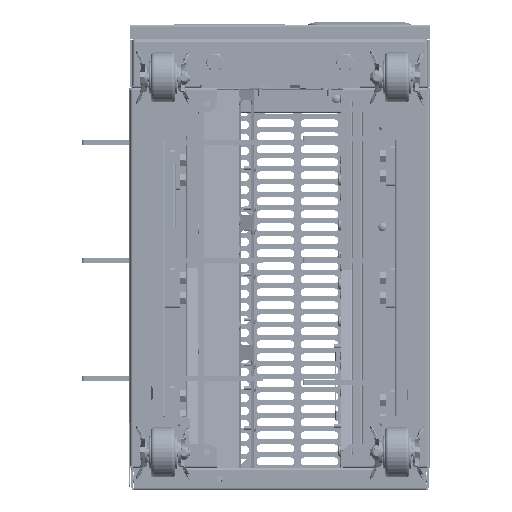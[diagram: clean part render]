
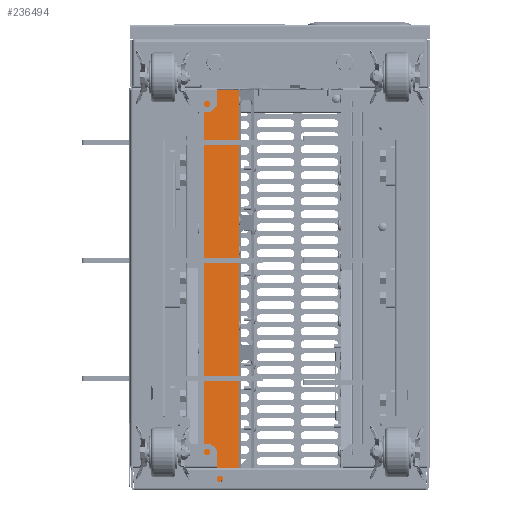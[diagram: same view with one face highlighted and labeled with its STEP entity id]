
A CAD part, front view. The second image highlights one B-rep face of the part: STEP entity #236494.
In plain terms, the highlighted planar face has unit normal (0, -0.563, 0.826) by its records, which use the part's own axes.
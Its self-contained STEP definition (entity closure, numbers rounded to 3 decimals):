
#236455=DIRECTION('',(0.,0.826,0.563));
#236456=VECTOR('',#236455,52.251);
#236457=CARTESIAN_POINT('',(-198.3,-42.414,-69.94));
#236458=LINE('',#236457,#236456);
#236459=DIRECTION('',(1.,0.,0.));
#236460=VECTOR('',#236459,396.6);
#236461=CARTESIAN_POINT('',(-198.3,0.758,-40.506));
#236462=LINE('',#236461,#236460);
#236463=DIRECTION('',(0.,-0.826,-0.563));
#236464=VECTOR('',#236463,52.251);
#236465=CARTESIAN_POINT('',(198.3,0.758,-40.506));
#236466=LINE('',#236465,#236464);
#236467=DIRECTION('',(-1.,0.,0.));
#236468=VECTOR('',#236467,396.6);
#236469=CARTESIAN_POINT('',(198.3,-42.414,-69.94));
#236470=LINE('',#236469,#236468);
#236471=CARTESIAN_POINT('',(-198.3,-42.414,-69.94));
#236472=CARTESIAN_POINT('',(-198.3,0.758,-40.506));
#236473=VERTEX_POINT('',#236471);
#236474=VERTEX_POINT('',#236472);
#236475=CARTESIAN_POINT('',(198.3,0.758,-40.506));
#236476=VERTEX_POINT('',#236475);
#236477=CARTESIAN_POINT('',(198.3,-42.414,-69.94));
#236478=VERTEX_POINT('',#236477);
#236479=CARTESIAN_POINT('',(0.,-20.828,
-55.223));
#236480=DIRECTION('',(0.,-0.563,0.826));
#236481=DIRECTION('',(0.,-0.826,-0.563));
#236482=AXIS2_PLACEMENT_3D('',#236479,#236480,#236481);
#236483=PLANE('',#236482);
#236485=ORIENTED_EDGE('',*,*,#236484,.T.);
#236487=ORIENTED_EDGE('',*,*,#236486,.T.);
#236489=ORIENTED_EDGE('',*,*,#236488,.T.);
#236491=ORIENTED_EDGE('',*,*,#236490,.T.);
#236492=EDGE_LOOP('',(#236485,#236487,#236489,#236491));
#236493=FACE_OUTER_BOUND('',#236492,.F.);
#236494=ADVANCED_FACE('',(#236493),#236483,.T.);
#236484=EDGE_CURVE('',#236473,#236474,#236458,.T.);
#236486=EDGE_CURVE('',#236474,#236476,#236462,.T.);
#236488=EDGE_CURVE('',#236476,#236478,#236466,.T.);
#236490=EDGE_CURVE('',#236478,#236473,#236470,.T.);
